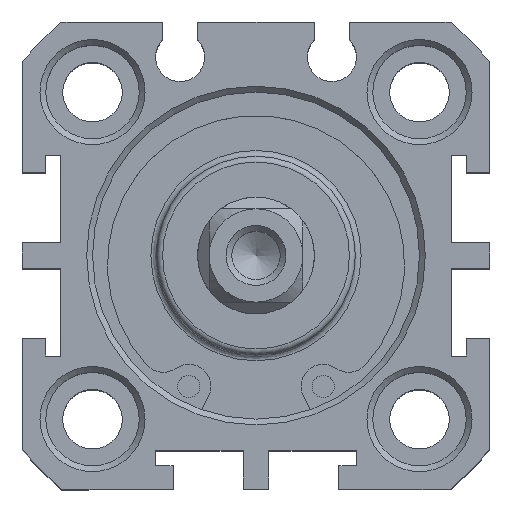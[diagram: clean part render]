
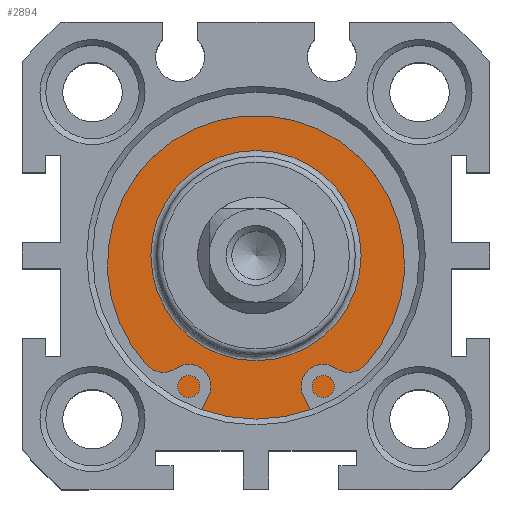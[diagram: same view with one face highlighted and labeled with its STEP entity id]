
A CAD part, top view. The second image highlights one B-rep face of the part: STEP entity #2894.
In plain terms, the highlighted planar face has unit normal (0, 0, 1).
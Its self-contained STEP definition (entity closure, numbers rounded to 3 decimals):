
#2843=CARTESIAN_POINT('',(-2.524,11.284,38.3));
#2844=VERTEX_POINT('',#2843);
#2845=CARTESIAN_POINT('',(-2.524,2.284,38.3));
#2846=DIRECTION('',(0.0,0.0,1.0));
#2847=DIRECTION('',(0.0,-1.0,0.0));
#2848=AXIS2_PLACEMENT_3D('',#2845,#2846,#2847);
#2849=CIRCLE('',#2848,9.);
#2850=EDGE_CURVE('',#2844,#2844,#2849,.T.);
#2875=CARTESIAN_POINT('',(-2.524,13.534,38.3));
#2876=DIRECTION('',(0.0,0.0,1.0));
#2877=DIRECTION('',(1.0,0.0,0.0));
#2878=AXIS2_PLACEMENT_3D('',#2875,#2876,#2877);
#2879=PLANE('',#2878);
#2880=CARTESIAN_POINT('',(-2.524,16.284,38.3));
#2881=VERTEX_POINT('',#2880);
#2882=CARTESIAN_POINT('',(-2.524,2.284,38.3));
#2883=DIRECTION('',(0.0,0.0,-1.0));
#2884=DIRECTION('',(0.0,1.0,0.0));
#2885=AXIS2_PLACEMENT_3D('',#2882,#2883,#2884);
#2886=CIRCLE('',#2885,14.);
#2887=EDGE_CURVE('',#2881,#2881,#2886,.T.);
#2888=ORIENTED_EDGE('',*,*,#2887,.F.);
#2889=EDGE_LOOP('',(#2888));
#2890=FACE_OUTER_BOUND('',#2889,.T.);
#2891=ORIENTED_EDGE('',*,*,#2850,.F.);
#2892=EDGE_LOOP('',(#2891));
#2893=FACE_BOUND('',#2892,.T.);
#2894=ADVANCED_FACE('',(#2890,#2893),#2879,.T.);
